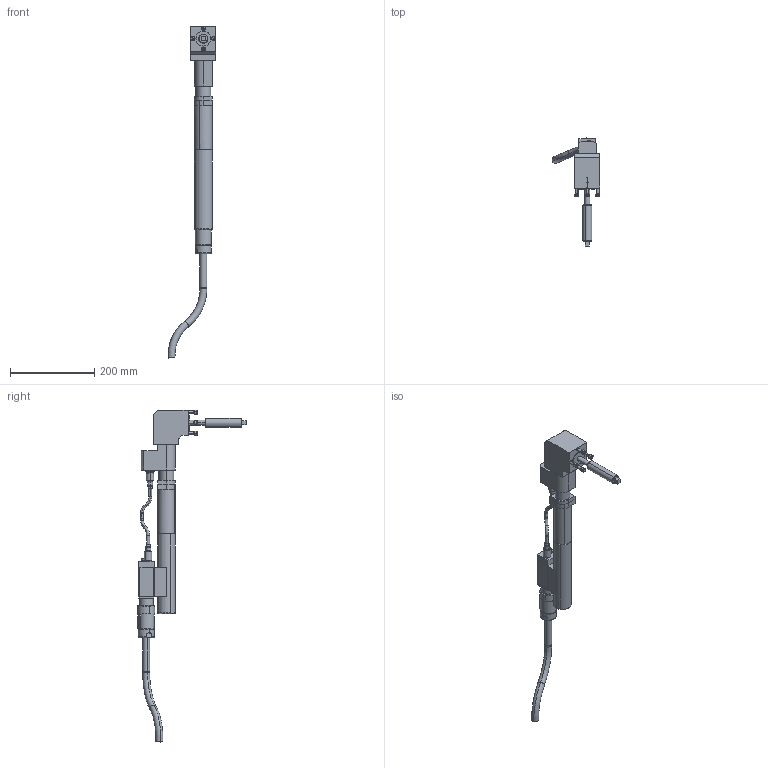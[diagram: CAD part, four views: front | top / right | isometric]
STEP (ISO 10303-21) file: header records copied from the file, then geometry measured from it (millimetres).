
FILE_DESCRIPTION(('CATIA V5 STEP Exchange'),'2;1');
FILE_NAME('O:\3D-Schrauber\Einschauschrauber Groesse1 CATIA V4+V5\7920500_ECR105_DR50_AW150_AllCATPart.stp','2008-11-06T10:40:04+00:00',('none'),('none'),'CATIA Version 5 Release 16 (IN-10)','CATIA V5 STEP AP203','none');
FILE_SCHEMA(('CONFIG_CONTROL_DESIGN'));
Length unit declared in the file: millimetre
Products named in the file (1): 7920500_ECR105_DR50_AW150_AllCATPart
Bounding box: 113.82 x 257.23 x 788.18 mm (x, y, z)
Volume: 1429394.6 mm3; surface area: 185986 mm2
Topology: 18 solids, 18 shells, 393 faces, 861 edges, 546 vertices
Faces by surface type: plane 170, cylinder 139, cone 44, torus 40
Entity records: 10255 total; most frequent: CARTESIAN_POINT 2065, ORIENTED_EDGE 1722, DIRECTION 1427, EDGE_CURVE 861, AXIS2_PLACEMENT_3D 710, VERTEX_POINT 546, EDGE_LOOP 435, VECTOR 415
